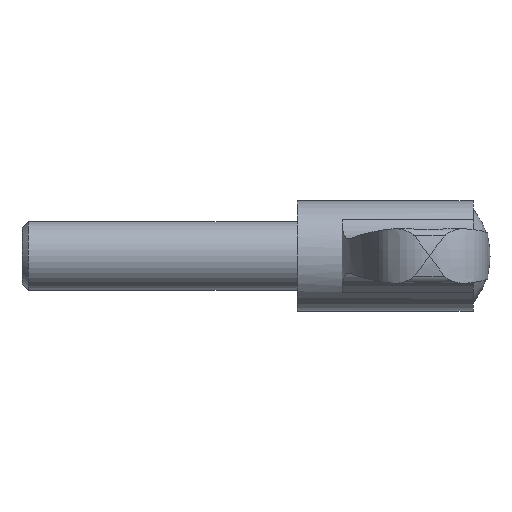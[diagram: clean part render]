
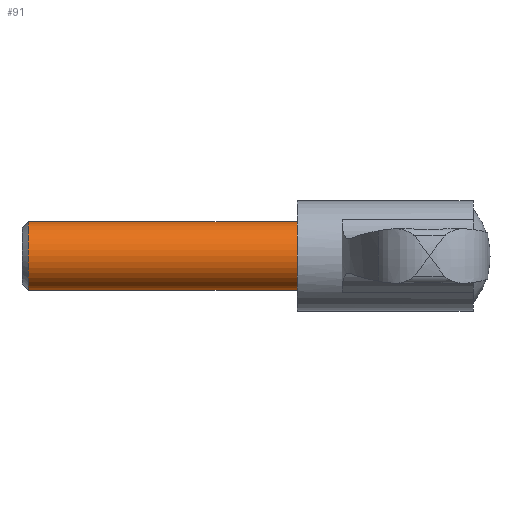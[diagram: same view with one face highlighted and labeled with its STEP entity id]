
A CAD part, front view. The second image highlights one B-rep face of the part: STEP entity #91.
In plain terms, the highlighted cylindrical face has radius 5 mm (diameter 10 mm), a full revolution.
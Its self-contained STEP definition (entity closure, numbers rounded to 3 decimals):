
#91 = ADVANCED_FACE( '', ( #147, #148 ), #149, .T. );
#147 = FACE_OUTER_BOUND( '', #332, .T. );
#148 = FACE_OUTER_BOUND( '', #333, .T. );
#149 = CYLINDRICAL_SURFACE( '', #334, 5. );
#332 = EDGE_LOOP( '', ( #505 ) );
#333 = EDGE_LOOP( '', ( #506 ) );
#334 = AXIS2_PLACEMENT_3D( '', #507, #508, #509 );
#505 = ORIENTED_EDGE( '', *, *, #679, .F. );
#506 = ORIENTED_EDGE( '', *, *, #610, .T. );
#507 = CARTESIAN_POINT( '', ( -40., 0., 0. ) );
#508 = DIRECTION( '', ( 1., 0., 0. ) );
#509 = DIRECTION( '', ( 0., -1., 0. ) );
#610 = EDGE_CURVE( '', #697, #697, #698, .T. );
#679 = EDGE_CURVE( '', #808, #808, #809, .T. );
#697 = VERTEX_POINT( '', #854 );
#698 = CIRCLE( '', #855, 5. );
#808 = VERTEX_POINT( '', #1435 );
#809 = CIRCLE( '', #1436, 5. );
#854 = CARTESIAN_POINT( '', ( 0., -5., 0. ) );
#855 = AXIS2_PLACEMENT_3D( '', #1473, #1474, #1475 );
#1435 = CARTESIAN_POINT( '', ( -39.08, -5., 0. ) );
#1436 = AXIS2_PLACEMENT_3D( '', #1530, #1531, #1532 );
#1473 = CARTESIAN_POINT( '', ( 0., 0., 0. ) );
#1474 = DIRECTION( '', ( -1., 0., 0. ) );
#1475 = DIRECTION( '', ( 0., -1., 0. ) );
#1530 = CARTESIAN_POINT( '', ( -39.08, 0., 0. ) );
#1531 = DIRECTION( '', ( -1., 0., 0. ) );
#1532 = DIRECTION( '', ( 0., -1., 0. ) );
